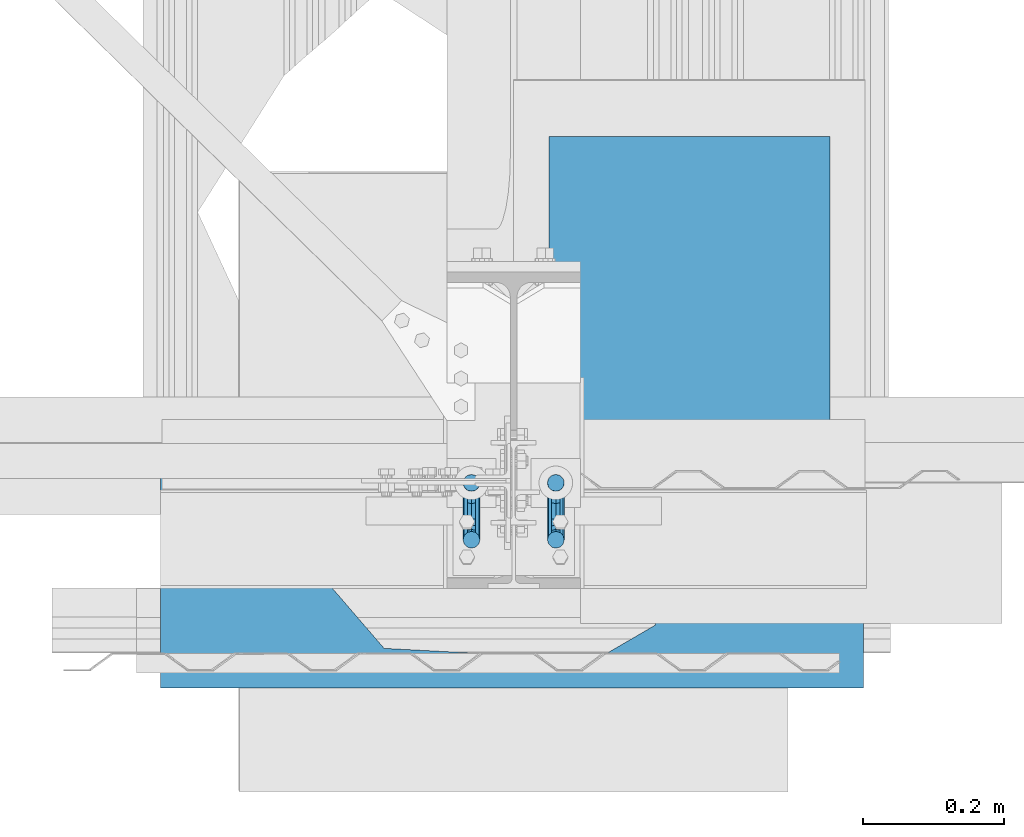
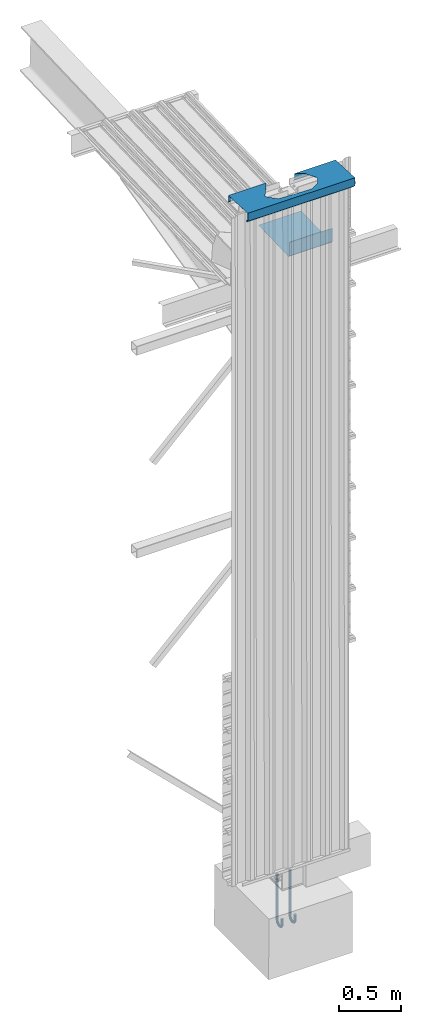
# One storey, part 5 of 18: 4 beams, 4 elements without a shape of their own.
"""IFC2X3 building model written with IfcOpenShell, lengths in millimetres."""

from ifc_helpers import new_model, si_unit, frame, origin_with_axes, place, context, subcontext, project, spatial, faceted_brep, material, type_object, element, aggregate, save


model = new_model("IFC2X3")

# Units and contexts
model_context = context("Model", 3, precision=1e-05, world=origin_with_axes())
body_context = subcontext(model_context, "Body", "Model", "MODEL_VIEW")
ifc_project = project(units=[si_unit("LENGTHUNIT", "METRE", prefix="MILLI"), si_unit("AREAUNIT", "SQUARE_METRE"), si_unit("VOLUMEUNIT", "CUBIC_METRE"), si_unit("MASSUNIT", "GRAM", prefix="KILO"), si_unit("TIMEUNIT", "SECOND"), si_unit("PLANEANGLEUNIT", "RADIAN"), si_unit("SOLIDANGLEUNIT", "STERADIAN"), si_unit("THERMODYNAMICTEMPERATUREUNIT", "DEGREE_CELSIUS"), si_unit("LUMINOUSINTENSITYUNIT", "LUMEN")], contexts=[model_context])

# Site, building, storey
site_placement = place(None, origin_with_axes())
site = spatial("IfcSite", under=ifc_project, at=site_placement, Name="Undefined", CompositionType="ELEMENT")
building_placement = place(site_placement, origin_with_axes())
building = spatial("IfcBuilding", under=site, at=building_placement, Name="Undefined", CompositionType="ELEMENT")
storey_placement = place(building_placement, origin_with_axes())
storey = spatial("IfcBuildingStorey", under=building, at=storey_placement, Name="Undefined", CompositionType="ELEMENT", Elevation=0.0)

# Assembly, beam
assembly_1_placement = place(storey_placement, frame((250.000322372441, 417.639639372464, 5825.52890698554), z_axis=(1.0, 0.0, 0.0), x_axis=(0.0, -0.999543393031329, -0.0302159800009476)))
assembly_1 = element("IfcElementAssembly", 1, at=assembly_1_placement, inside=storey, Name="etancheite", PredefinedType="NOTDEFINED")
ifc_material_1 = material(Name="MISCELLANEOUS/NEOPRENE")
beam_type_1 = type_object("IfcBeamType", Name="400*1", PredefinedType="NOTDEFINED")
beam_1_placement = place(storey_placement, frame((250.000322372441, 417.639639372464, 5825.52890698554), z_axis=(1.0, 0.0, 0.0), x_axis=(0.0, -0.999543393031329, -0.0302159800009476)))
beam_1 = element("IfcBeam", 2, at=beam_1_placement, type_object=beam_type_1, material=ifc_material_1, Name="ELASTOPHENE SOPREMA", ObjectType="400*1", context=body_context, shape_type="Brep", body=[
    faceted_brep([(-3.01611180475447e-10, -0.499999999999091, -200.0), (-3.01611180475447e-10, -0.499999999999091, 200.0), (3.01611180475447e-10, 0.5, 200.0), (3.01611180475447e-10, 0.5, -200.0), (482.989090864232, 0.499999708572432, 200.0), (482.989090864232, 0.499999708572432, -200.0), (482.890362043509, -0.500000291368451, -200.0), (482.890362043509, -0.500000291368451, 200.0), (486.407980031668, -0.181731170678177, 200.0), (486.407980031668, -0.181731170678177, -200.0), (486.126629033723, -1.14531607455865, -200.0), (486.126629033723, -1.14531607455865, 200.0), (489.656547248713, -1.44678824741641, 200.0), (489.656547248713, -1.44678824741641, -200.0), (489.212145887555, -2.34687807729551, -200.0), (489.212145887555, -2.34687807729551, 200.0), (492.636085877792, -3.25673386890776, 200.0), (492.636085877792, -3.25673386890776, -200.0), (492.042136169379, -4.06597930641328, -200.0), (492.042136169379, -4.06597930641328, 200.0), (495.256053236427, -5.55657243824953, 200.0), (495.256053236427, -5.55657243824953, -200.0), (494.530602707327, -6.25038488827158, -200.0), (494.530602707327, -6.25038488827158, 200.0), (497.436859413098, -8.2764247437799, 200.0), (497.436859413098, -8.2764247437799, -200.0), (496.6019516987, -8.83372465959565, -200.0), (496.6019516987, -8.83372465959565, 200.0), (499.112245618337, -11.3336507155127, 200.0), (499.112245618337, -11.3336507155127, -200.0), (498.193247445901, -11.7375033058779, -200.0), (498.193247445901, -11.7375033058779, 200.0), (500.231284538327, -14.6353565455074, 200.0), (500.231284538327, -14.6353565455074, -200.0), (499.256120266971, -14.8734919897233, -200.0), (499.256120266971, -14.8734919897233, 200.0), (500.760004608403, -18.081222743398, 200.0), (500.760004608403, -18.081222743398, -200.0), (499.757749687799, -18.1427983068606, -200.0), (499.757749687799, -18.1427983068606, 200.0), (496.895226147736, -148.924552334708, 200.0), (496.895226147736, -148.924552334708, -200.0), (495.895662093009, -148.895027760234, 200.0), (495.895662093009, -148.895027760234, -200.0)], [[[0, 1, 2, 3]], [[3, 2, 4, 5]], [[1, 0, 6, 7]], [[5, 4, 8, 9]], [[7, 6, 10, 11]], [[9, 8, 12, 13]], [[11, 10, 14, 15]], [[13, 12, 16, 17]], [[15, 14, 18, 19]], [[17, 16, 20, 21]], [[19, 18, 22, 23]], [[21, 20, 24, 25]], [[23, 22, 26, 27]], [[25, 24, 28, 29]], [[27, 26, 30, 31]], [[29, 28, 32, 33]], [[31, 30, 34, 35]], [[33, 32, 36, 37]], [[35, 34, 38, 39]], [[37, 36, 40, 41]], [[36, 32, 28, 24, 20, 16, 12, 8, 4, 2, 1, 7, 11, 15, 19, 23, 27, 31, 35, 39, 42, 40]], [[39, 38, 43, 42]], [[38, 34, 30, 26, 22, 18, 14, 10, 6, 0, 3, 5, 9, 13, 17, 21, 25, 29, 33, 37, 41, 43]], [[42, 43, 41, 40]]]),
])
aggregate(assembly_1, [beam_1])

assembly_2_placement = place(storey_placement, frame((-2.34999990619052, -46.2036559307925, 6523.27044355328), z_axis=(1.0, 0.0, 0.0), x_axis=(-1.94873002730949e-13, -0.470058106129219, 0.882635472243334)))
assembly_2 = element("IfcElementAssembly", 3, at=assembly_2_placement, inside=storey, Name="coiffe", PredefinedType="NOTDEFINED")
ifc_material_2 = material(Name="STEEL/S235JR")
beam_type_2 = type_object("IfcBeamType", Name="1000*0.63", PredefinedType="NOTDEFINED")
beam_2_placement = place(storey_placement, frame((-2.34999990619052, -46.2036559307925, 6523.27044355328), z_axis=(1.0, 0.0, 0.0), x_axis=(-1.94873002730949e-13, -0.470058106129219, 0.882635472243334)))
beam_2 = element("IfcBeam", 4, at=beam_2_placement, type_object=beam_type_2, material=ifc_material_2, Name="COIFFE ACROTERE", ObjectType="1000*0.63", context=body_context, shape_type="Brep", body=[
    faceted_brep([(67.5619696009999, -28.5167850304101, 119.975893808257), (14.6029651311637, -0.315000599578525, 114.335998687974), (-1.14296199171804e-08, -0.314999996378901, 103.221769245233), (1.45928424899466e-08, 0.315000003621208, 103.996193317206), (14.7602534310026, 0.314999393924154, 115.230133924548), (67.327993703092, -27.6784286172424, 120.828361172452), (92.8957096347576, 15.2524985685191, 193.060405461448), (93.4339052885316, 14.9249596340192, 193.0673975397), (-1.14023350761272e-08, -0.314999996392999, -141.128082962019), (14.6029651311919, -0.315000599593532, -145.808730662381), (67.561969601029, -28.5167850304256, -147.328344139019), (155.353317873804, 118.894270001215, -256.252318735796), (154.815122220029, 119.221808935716, -256.259310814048), (67.3279937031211, -27.6784286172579, -147.71278599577), (14.7602534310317, 0.314999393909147, -146.204399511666), (1.4619217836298e-08, 0.31500000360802, -141.473336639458), (199.576414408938, 193.14957471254, -181.885367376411), (199.038218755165, 193.47711364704, -181.892359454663), (207.707042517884, 206.801768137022, 119.674551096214), (207.168846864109, 207.129307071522, 119.667559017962), (182.889026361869, 165.129666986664, 202.950434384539), (182.350830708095, 165.457205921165, 202.943442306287), (147.611884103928, 105.895575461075, 243.631275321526), (147.073688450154, 106.223114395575, 243.624283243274), (158.168102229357, 278.500534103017, -499.999999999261), (158.168102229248, 278.500534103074, 500.000000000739), (148.760478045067, 260.839774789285, 500.000000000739), (148.760478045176, 260.839774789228, -499.999999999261), (227.636070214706, 241.495962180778, -499.999999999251), (227.636070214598, 241.495962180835, 500.000000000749), (228.515463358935, 241.741330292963, 500.000000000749), (228.515463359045, 241.741330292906, -499.999999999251), (157.908260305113, 279.352756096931, -499.999999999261), (157.908260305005, 279.352756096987, 500.000000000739), (148.500598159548, 261.691925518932, -499.999999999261), (148.50059815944, 261.691925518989, 500.000000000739), (130.847592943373, 271.092519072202, -499.999999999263), (130.847592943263, 271.092519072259, 500.000000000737), (67.3279937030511, -27.6784286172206, 500.000000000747), (14.7602534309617, 0.314999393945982, 500.000000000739), (9.45021838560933e-13, 0.314999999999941, 500.0), (-9.45021838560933e-13, -0.314999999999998, 500.0), (14.6029651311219, -0.315000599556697, 500.00000000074), (67.5619696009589, -28.5167850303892, 500.000000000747), (130.551474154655, 270.536449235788, 500.000000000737), (130.551474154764, 270.536449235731, -499.999999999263), (67.5619696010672, -28.516785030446, -499.999999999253), (14.602965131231, -0.315000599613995, -499.99999999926), (-9.45021838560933e-13, -0.314999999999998, -500.0), (9.45021838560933e-13, 0.314999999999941, -500.0), (14.7602534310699, 0.314999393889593, -499.999999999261), (67.3279937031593, -27.6784286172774, -499.999999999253)], [[[0, 1, 2, 3, 4, 5, 6, 7]], [[8, 9, 10, 11, 12, 13, 14, 15]], [[16, 17, 12, 11]], [[18, 19, 17, 16]], [[20, 21, 19, 18]], [[22, 23, 21, 20]], [[7, 6, 23, 22]], [[24, 25, 26, 27]], [[28, 29, 25, 24]], [[30, 31, 32, 33]], [[33, 32, 34, 35]], [[35, 34, 36, 37]], [[26, 25, 29, 38, 39, 40, 41, 42, 43, 30, 33, 35, 37, 44]], [[27, 26, 44, 45]], [[37, 36, 45, 44]], [[34, 32, 31, 46, 47, 48, 49, 50, 51, 28, 24, 27, 45, 36]], [[47, 46, 10, 9]], [[48, 47, 9, 8]], [[49, 48, 8, 15]], [[50, 49, 15, 14]], [[51, 50, 14, 13]], [[5, 38, 29, 28, 51, 13, 12, 17, 19, 21, 23, 6]], [[39, 38, 5, 4]], [[40, 39, 4, 3]], [[41, 40, 3, 2]], [[42, 41, 2, 1]], [[43, 42, 1, 0]], [[18, 16, 11, 10, 46, 31, 30, 43, 0, 7, 22, 20]]]),
])
aggregate(assembly_2, [beam_2])

assembly_3_placement = place(storey_placement, frame((-59.9999999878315, -74.9999991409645, -235.000000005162), z_axis=(0.0, -1.0, -6.7762635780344e-21), x_axis=(2.350712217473e-13, -3.38692037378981e-13, -1.0)))
assembly_3 = element("IfcElementAssembly", 5, at=assembly_3_placement, inside=storey, Name="Assembly", PredefinedType="NOTDEFINED")
beam_type_3 = type_object("IfcBeamType", Name="D24", PredefinedType="NOTDEFINED")
beam_3_placement = place(storey_placement, frame((-59.9999999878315, -74.9999991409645, -235.000000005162), z_axis=(0.0, -1.0, -6.7762635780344e-21), x_axis=(2.350712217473e-13, -3.38692037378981e-13, -1.0)))
beam_3 = element("IfcBeam", 6, at=beam_3_placement, type_object=beam_type_3, material=ifc_material_2, Name="CROSSE", ObjectType="D24", context=body_context, shape_type="Brep", body=[
    faceted_brep([(3.63797880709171e-12, -12.0000000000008, 7.44648787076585e-12), (1.70530256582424e-12, -10.3923048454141, -5.99999999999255), (447.999999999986, -10.392304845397, -6.00000000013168), (447.999999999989, -11.9999999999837, -1.31578303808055e-10), (1.70530256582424e-13, -6.00000000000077, -10.3923048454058), (447.999999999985, -5.99999999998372, -10.3923048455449), (-5.40012479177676e-13, -7.95807864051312e-13, -11.9999999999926), (447.999999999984, 1.62785340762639e-11, -12.0000000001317), (-2.8421709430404e-13, 5.99999999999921, -10.3923048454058), (447.999999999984, 6.00000000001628, -10.3923048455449), (9.37916411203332e-13, 10.3923048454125, -5.99999999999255), (447.999999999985, 10.3923048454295, -6.00000000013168), (2.72848410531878e-12, 11.9999999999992, 7.44648787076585e-12), (447.999999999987, 12.0000000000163, -1.31677779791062e-10), (4.66116034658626e-12, 10.3923048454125, 6.00000000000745), (447.999999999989, 10.3923048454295, 5.99999999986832), (6.19593265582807e-12, 5.9999999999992, 10.3923048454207), (447.99999999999, 6.00000000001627, 10.3923048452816), (6.90647539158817e-12, -7.95807864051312e-13, 12.0000000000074), (447.999999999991, 1.62714286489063e-11, 11.9999999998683), (6.65068000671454e-12, -6.00000000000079, 10.3923048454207), (447.999999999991, -5.99999999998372, 10.3923048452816), (5.42854650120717e-12, -10.3923048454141, 6.00000000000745), (447.99999999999, -10.392304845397, 5.99999999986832), (467.89953848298, 1.65130131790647e-11, -8.04173569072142), (467.284300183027, -5.99999999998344, -6.55641904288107), (465.603437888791, -10.3923048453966, -2.49845849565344), (463.307337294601, -11.9999999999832, 3.04481869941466), (461.011236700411, -10.3923048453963, 8.58809589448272), (459.330374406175, -5.999999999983, 12.6460564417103), (458.715136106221, 1.7024603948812e-11, 14.1313730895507), (459.330374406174, 6.00000000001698, 12.6460564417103), (461.01123670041, 10.3923048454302, 8.58809589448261), (463.3073372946, 12.0000000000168, 3.04481869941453), (465.603437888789, 10.3923048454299, -2.49845849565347), (467.284300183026, 6.00000000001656, -6.55641904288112), (483.632740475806, 6.00000000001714, 4.36725952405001), (484.769552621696, 1.7131185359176e-11, 3.23044737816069), (480.526911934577, 10.3923048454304, 7.47308806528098), (476.284271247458, 12.0000000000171, 11.715728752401), (472.04163056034, 10.3923048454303, 15.9583694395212), (468.93580201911, 6.00000000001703, 19.0641979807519), (467.798989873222, 1.7024603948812e-11, 20.2010101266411), (468.935802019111, -5.99999999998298, 19.0641979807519), (472.041630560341, -10.3923048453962, 15.9583694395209), (476.28427124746, -11.9999999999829, 11.7157287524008), (480.526911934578, -10.3923048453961, 7.47308806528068), (483.632740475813, -5.99999999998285, 4.36725952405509), (494.55641904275, 6.00000000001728, 20.7156998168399), (496.041735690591, 1.73159264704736e-11, 20.1004615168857), (490.498458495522, 10.3923048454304, 22.3965621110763), (484.955181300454, 12.000000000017, 24.6926627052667), (479.411904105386, 10.3923048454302, 26.9887632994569), (475.353943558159, 6.00000000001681, 28.6696255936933), (473.868626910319, 1.6775913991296e-11, 29.284863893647), (475.35394355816, -5.99999999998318, 28.6696255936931), (479.411904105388, -10.3923048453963, 26.9887632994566), (484.955181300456, -11.999999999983, 24.6926627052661), (490.498458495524, -10.3923048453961, 22.3965621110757), (494.556419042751, -5.99999999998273, 20.7156998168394), (498.392304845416, 6.00000000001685, 39.9999999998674), (500.000000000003, 1.68967062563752e-11, 39.9999999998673), (494.000000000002, 10.39230484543, 39.9999999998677), (488.000000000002, 12.0000000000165, 39.9999999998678), (482.000000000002, 10.3923048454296, 39.999999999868), (477.607695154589, 6.00000000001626, 39.999999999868), (476.000000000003, 1.62145852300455e-11, 39.999999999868), (477.60769515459, -5.99999999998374, 39.9999999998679), (482.000000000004, -10.3923048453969, 39.9999999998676), (488.000000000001, -11.9999999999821, 39.9999999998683), (494.000000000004, -10.3923048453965, 39.9999999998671), (498.392304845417, -5.99999999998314, 39.9999999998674), (494.000000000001, -10.3923048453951, 40.4144965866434), (488.000000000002, -11.9999999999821, 40.4144965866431), (498.392304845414, -5.99999999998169, 40.4144965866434), (500.0, 1.83746351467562e-11, 40.4144965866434), (498.392304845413, 6.00000000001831, 40.4144965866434), (493.999999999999, 10.3923048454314, 40.4144965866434), (487.999999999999, 12.0000000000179, 40.4144965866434), (481.999999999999, 10.3923048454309, 40.4144965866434), (477.607695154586, 6.00000000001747, 40.4144965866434), (476.0, 1.74011915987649e-11, 40.4144965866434), (477.607695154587, -5.99999999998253, 40.4144965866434), (482.000000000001, -10.3923048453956, 40.4144965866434), (496.093392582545, 1.81614723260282e-11, 60.1888635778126), (494.606478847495, -5.99999999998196, 59.5774952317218), (490.544154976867, -10.3923048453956, 57.9072058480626), (484.994917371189, -11.9999999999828, 55.6255481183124), (479.445679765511, -10.3923048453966, 53.3438903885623), (475.383355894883, -5.99999999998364, 51.673601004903), (473.896442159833, 1.62216906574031e-11, 51.0622326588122), (475.383355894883, 6.00000000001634, 51.673601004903), (479.445679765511, 10.39230484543, 53.3438903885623), (484.994917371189, 12.0000000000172, 55.6255481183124), (490.544154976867, 10.3923048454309, 57.9072058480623), (494.606478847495, 6.00000000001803, 59.5774952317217), (483.817836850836, 6.00000000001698, 75.8611741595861), (484.960554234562, 1.70743419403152e-11, 76.9920502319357), (480.695874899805, 10.39230484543, 72.7715632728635), (476.431195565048, 12.0000000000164, 68.5510763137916), (472.166516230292, 10.3923048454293, 64.3305893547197), (469.044554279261, 6.00000000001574, 61.2409784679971), (467.901836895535, 1.56461510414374e-11, 60.1101023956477), (469.044554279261, -5.99999999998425, 61.2409784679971), (472.166516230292, -10.3923048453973, 64.3305893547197), (476.431195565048, -11.9999999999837, 68.5510763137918), (480.695874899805, -10.3923048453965, 72.7715632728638), (483.817836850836, -5.99999999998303, 75.8611741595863), (467.647416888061, 6.00000000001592, 86.8188433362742), (468.274239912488, 1.59872115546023e-11, 88.2993083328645), (465.934904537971, 10.392304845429, 82.7741377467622), (463.595569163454, 12.0000000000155, 77.2489671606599), (461.256233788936, 10.3923048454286, 71.7237965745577), (459.543721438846, 6.00000000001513, 67.6790909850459), (458.916898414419, 1.50848222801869e-11, 66.1986259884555), (459.543721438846, -5.99999999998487, 67.6790909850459), (461.256233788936, -10.3923048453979, 71.7237965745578), (463.595569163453, -11.9999999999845, 77.2489671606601), (465.934904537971, -10.3923048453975, 82.7741377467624), (467.647416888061, -5.99999999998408, 86.8188433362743), (448.524891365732, 6.00000000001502, 90.804067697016), (448.541637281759, 1.50635059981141e-11, 92.4116756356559), (448.479140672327, 10.3923048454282, 86.4120011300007), (448.416644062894, 12.0000000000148, 80.4123266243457), (448.35414745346, 10.392304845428, 74.4126521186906), (448.308396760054, 6.00000000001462, 70.0205855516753), (448.291650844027, 1.46016532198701e-11, 68.4129776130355), (448.308396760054, -5.99999999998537, 70.0205855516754), (448.35414745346, -10.3923048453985, 74.4126521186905), (448.416644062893, -11.9999999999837, 80.4123266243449), (448.479140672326, -10.3923048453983, 86.4120011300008), (448.524891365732, -5.99999999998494, 90.8040676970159), (392.062496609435, -10.3923048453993, 86.9996745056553), (392.000000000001, -11.999999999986, 81.0), (392.108247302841, -5.99999999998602, 91.3917410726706), (392.124993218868, 1.39692701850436e-11, 92.9993490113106), (392.10824730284, 6.00000000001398, 91.3917410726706), (392.062496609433, 10.3923048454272, 86.9996745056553), (391.999999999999, 12.000000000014, 81.0), (391.937503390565, 10.3923048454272, 75.0003254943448), (391.891752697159, 6.00000000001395, 70.6082589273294), (391.875006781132, 1.39408484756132e-11, 69.0006509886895), (391.89175269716, -5.99999999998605, 70.6082589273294), (391.937503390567, -10.3923048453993, 75.0003254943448)], [[[0, 1, 2, 3]], [[1, 4, 5, 2]], [[4, 6, 7, 5]], [[6, 8, 9, 7]], [[8, 10, 11, 9]], [[10, 12, 13, 11]], [[12, 14, 15, 13]], [[14, 16, 17, 15]], [[16, 18, 19, 17]], [[18, 20, 21, 19]], [[20, 22, 23, 21]], [[22, 0, 3, 23]], [[22, 20, 18, 16, 14, 12, 10, 8, 6, 4, 1, 0]], [[5, 7, 24, 25]], [[2, 5, 25, 26]], [[3, 2, 26, 27]], [[23, 3, 27, 28]], [[21, 23, 28, 29]], [[19, 21, 29, 30]], [[17, 19, 30, 31]], [[15, 17, 31, 32]], [[13, 15, 32, 33]], [[11, 13, 33, 34]], [[9, 11, 34, 35]], [[7, 9, 35, 24]], [[35, 36, 37, 24]], [[34, 38, 36, 35]], [[33, 39, 38, 34]], [[32, 40, 39, 33]], [[31, 41, 40, 32]], [[30, 42, 41, 31]], [[29, 43, 42, 30]], [[28, 44, 43, 29]], [[27, 45, 44, 28]], [[26, 46, 45, 27]], [[25, 47, 46, 26]], [[24, 37, 47, 25]], [[36, 48, 49, 37]], [[38, 50, 48, 36]], [[39, 51, 50, 38]], [[40, 52, 51, 39]], [[41, 53, 52, 40]], [[42, 54, 53, 41]], [[43, 55, 54, 42]], [[44, 56, 55, 43]], [[45, 57, 56, 44]], [[46, 58, 57, 45]], [[47, 59, 58, 46]], [[37, 49, 59, 47]], [[48, 60, 61, 49]], [[50, 62, 60, 48]], [[51, 63, 62, 50]], [[52, 64, 63, 51]], [[53, 65, 64, 52]], [[54, 66, 65, 53]], [[55, 67, 66, 54]], [[56, 68, 67, 55]], [[57, 69, 68, 56]], [[58, 70, 69, 57]], [[59, 71, 70, 58]], [[49, 61, 71, 59]], [[69, 70, 72, 73]], [[70, 71, 74, 72]], [[71, 61, 75, 74]], [[61, 60, 76, 75]], [[60, 62, 77, 76]], [[62, 63, 78, 77]], [[63, 64, 79, 78]], [[64, 65, 80, 79]], [[65, 66, 81, 80]], [[66, 67, 82, 81]], [[67, 68, 83, 82]], [[68, 69, 73, 83]], [[74, 75, 84, 85]], [[72, 74, 85, 86]], [[73, 72, 86, 87]], [[83, 73, 87, 88]], [[82, 83, 88, 89]], [[81, 82, 89, 90]], [[80, 81, 90, 91]], [[79, 80, 91, 92]], [[78, 79, 92, 93]], [[77, 78, 93, 94]], [[76, 77, 94, 95]], [[75, 76, 95, 84]], [[95, 96, 97, 84]], [[94, 98, 96, 95]], [[93, 99, 98, 94]], [[92, 100, 99, 93]], [[91, 101, 100, 92]], [[90, 102, 101, 91]], [[89, 103, 102, 90]], [[88, 104, 103, 89]], [[87, 105, 104, 88]], [[86, 106, 105, 87]], [[85, 107, 106, 86]], [[84, 97, 107, 85]], [[96, 108, 109, 97]], [[98, 110, 108, 96]], [[99, 111, 110, 98]], [[100, 112, 111, 99]], [[101, 113, 112, 100]], [[102, 114, 113, 101]], [[103, 115, 114, 102]], [[104, 116, 115, 103]], [[105, 117, 116, 104]], [[106, 118, 117, 105]], [[107, 119, 118, 106]], [[97, 109, 119, 107]], [[108, 120, 121, 109]], [[110, 122, 120, 108]], [[111, 123, 122, 110]], [[112, 124, 123, 111]], [[113, 125, 124, 112]], [[114, 126, 125, 113]], [[115, 127, 126, 114]], [[116, 128, 127, 115]], [[117, 129, 128, 116]], [[118, 130, 129, 117]], [[119, 131, 130, 118]], [[109, 121, 131, 119]], [[129, 130, 132, 133]], [[130, 131, 134, 132]], [[131, 121, 135, 134]], [[121, 120, 136, 135]], [[120, 122, 137, 136]], [[122, 123, 138, 137]], [[123, 124, 139, 138]], [[124, 125, 140, 139]], [[125, 126, 141, 140]], [[126, 127, 142, 141]], [[127, 128, 143, 142]], [[128, 129, 133, 143]], [[134, 135, 136, 137, 138, 139, 140, 141, 142, 143, 133, 132]]]),
])
aggregate(assembly_3, [beam_3])

assembly_4_placement = place(storey_placement, frame((59.9999999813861, -74.9999991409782, -235.000000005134), z_axis=(0.0, -1.0, -6.7762635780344e-21), x_axis=(2.350712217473e-13, -3.38692037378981e-13, -1.0)))
assembly_4 = element("IfcElementAssembly", 7, at=assembly_4_placement, inside=storey, Name="BARRE", PredefinedType="NOTDEFINED")
beam_4_placement = place(storey_placement, frame((59.9999999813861, -74.9999991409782, -235.000000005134), z_axis=(0.0, -1.0, -6.7762635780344e-21), x_axis=(2.350712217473e-13, -3.38692037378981e-13, -1.0)))
beam_4 = element("IfcBeam", 8, at=beam_4_placement, type_object=beam_type_3, material=ifc_material_2, Name="CROSSE", ObjectType="D24", context=body_context, shape_type="Brep", body=[
    faceted_brep([(3.63797880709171e-12, -12.0000000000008, 7.44648787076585e-12), (1.70530256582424e-12, -10.3923048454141, -5.99999999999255), (447.999999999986, -10.392304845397, -6.00000000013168), (447.999999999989, -11.9999999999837, -1.31578303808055e-10), (1.70530256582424e-13, -6.00000000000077, -10.3923048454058), (447.999999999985, -5.99999999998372, -10.3923048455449), (-5.40012479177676e-13, -7.95807864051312e-13, -11.9999999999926), (447.999999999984, 1.62785340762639e-11, -12.0000000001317), (-2.8421709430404e-13, 5.99999999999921, -10.3923048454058), (447.999999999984, 6.00000000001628, -10.3923048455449), (9.37916411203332e-13, 10.3923048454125, -5.99999999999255), (447.999999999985, 10.3923048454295, -6.00000000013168), (2.72848410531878e-12, 11.9999999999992, 7.44648787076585e-12), (447.999999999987, 12.0000000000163, -1.31677779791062e-10), (4.66116034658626e-12, 10.3923048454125, 6.00000000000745), (447.999999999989, 10.3923048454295, 5.99999999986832), (6.19593265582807e-12, 5.9999999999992, 10.3923048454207), (447.99999999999, 6.00000000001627, 10.3923048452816), (6.90647539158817e-12, -7.95807864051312e-13, 12.0000000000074), (447.999999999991, 1.62714286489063e-11, 11.9999999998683), (6.65068000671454e-12, -6.00000000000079, 10.3923048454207), (447.999999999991, -5.99999999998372, 10.3923048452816), (5.42854650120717e-12, -10.3923048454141, 6.00000000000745), (447.99999999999, -10.392304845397, 5.99999999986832), (467.89953848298, 1.65130131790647e-11, -8.04173569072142), (467.284300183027, -5.99999999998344, -6.55641904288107), (465.603437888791, -10.3923048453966, -2.49845849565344), (463.307337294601, -11.9999999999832, 3.04481869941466), (461.011236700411, -10.3923048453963, 8.58809589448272), (459.330374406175, -5.999999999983, 12.6460564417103), (458.715136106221, 1.7024603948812e-11, 14.1313730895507), (459.330374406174, 6.00000000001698, 12.6460564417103), (461.01123670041, 10.3923048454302, 8.58809589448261), (463.3073372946, 12.0000000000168, 3.04481869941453), (465.603437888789, 10.3923048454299, -2.49845849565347), (467.284300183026, 6.00000000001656, -6.55641904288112), (483.632740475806, 6.00000000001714, 4.36725952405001), (484.769552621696, 1.7131185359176e-11, 3.23044737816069), (480.526911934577, 10.3923048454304, 7.47308806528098), (476.284271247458, 12.0000000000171, 11.715728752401), (472.04163056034, 10.3923048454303, 15.9583694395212), (468.93580201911, 6.00000000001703, 19.0641979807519), (467.798989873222, 1.7024603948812e-11, 20.2010101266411), (468.935802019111, -5.99999999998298, 19.0641979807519), (472.041630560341, -10.3923048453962, 15.9583694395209), (476.28427124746, -11.9999999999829, 11.7157287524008), (480.526911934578, -10.3923048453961, 7.47308806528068), (483.632740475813, -5.99999999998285, 4.36725952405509), (494.55641904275, 6.00000000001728, 20.7156998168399), (496.041735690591, 1.73159264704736e-11, 20.1004615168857), (490.498458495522, 10.3923048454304, 22.3965621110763), (484.955181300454, 12.000000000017, 24.6926627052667), (479.411904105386, 10.3923048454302, 26.9887632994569), (475.353943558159, 6.00000000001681, 28.6696255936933), (473.868626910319, 1.6775913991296e-11, 29.284863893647), (475.35394355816, -5.99999999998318, 28.6696255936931), (479.411904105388, -10.3923048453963, 26.9887632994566), (484.955181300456, -11.999999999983, 24.6926627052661), (490.498458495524, -10.3923048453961, 22.3965621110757), (494.556419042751, -5.99999999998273, 20.7156998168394), (498.392304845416, 6.00000000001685, 39.9999999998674), (500.000000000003, 1.68967062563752e-11, 39.9999999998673), (494.000000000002, 10.39230484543, 39.9999999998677), (488.000000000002, 12.0000000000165, 39.9999999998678), (482.000000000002, 10.3923048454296, 39.999999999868), (477.607695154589, 6.00000000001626, 39.999999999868), (476.000000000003, 1.62145852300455e-11, 39.999999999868), (477.60769515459, -5.99999999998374, 39.9999999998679), (482.000000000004, -10.3923048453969, 39.9999999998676), (488.000000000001, -11.9999999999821, 39.9999999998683), (494.000000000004, -10.3923048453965, 39.9999999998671), (498.392304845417, -5.99999999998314, 39.9999999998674), (494.000000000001, -10.3923048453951, 40.4144965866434), (488.000000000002, -11.9999999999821, 40.4144965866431), (498.392304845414, -5.99999999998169, 40.4144965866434), (500.0, 1.83746351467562e-11, 40.4144965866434), (498.392304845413, 6.00000000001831, 40.4144965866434), (493.999999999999, 10.3923048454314, 40.4144965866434), (487.999999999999, 12.0000000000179, 40.4144965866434), (481.999999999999, 10.3923048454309, 40.4144965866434), (477.607695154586, 6.00000000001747, 40.4144965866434), (476.0, 1.74011915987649e-11, 40.4144965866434), (477.607695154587, -5.99999999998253, 40.4144965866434), (482.000000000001, -10.3923048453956, 40.4144965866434), (496.093392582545, 1.81614723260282e-11, 60.1888635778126), (494.606478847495, -5.99999999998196, 59.5774952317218), (490.544154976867, -10.3923048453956, 57.9072058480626), (484.994917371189, -11.9999999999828, 55.6255481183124), (479.445679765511, -10.3923048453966, 53.3438903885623), (475.383355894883, -5.99999999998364, 51.673601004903), (473.896442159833, 1.62216906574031e-11, 51.0622326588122), (475.383355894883, 6.00000000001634, 51.673601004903), (479.445679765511, 10.39230484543, 53.3438903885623), (484.994917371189, 12.0000000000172, 55.6255481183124), (490.544154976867, 10.3923048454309, 57.9072058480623), (494.606478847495, 6.00000000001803, 59.5774952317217), (483.817836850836, 6.00000000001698, 75.8611741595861), (484.960554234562, 1.70743419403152e-11, 76.9920502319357), (480.695874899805, 10.39230484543, 72.7715632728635), (476.431195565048, 12.0000000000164, 68.5510763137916), (472.166516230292, 10.3923048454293, 64.3305893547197), (469.044554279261, 6.00000000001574, 61.2409784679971), (467.901836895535, 1.56461510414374e-11, 60.1101023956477), (469.044554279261, -5.99999999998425, 61.2409784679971), (472.166516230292, -10.3923048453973, 64.3305893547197), (476.431195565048, -11.9999999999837, 68.5510763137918), (480.695874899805, -10.3923048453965, 72.7715632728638), (483.817836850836, -5.99999999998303, 75.8611741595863), (467.647416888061, 6.00000000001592, 86.8188433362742), (468.274239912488, 1.59872115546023e-11, 88.2993083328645), (465.934904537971, 10.392304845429, 82.7741377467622), (463.595569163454, 12.0000000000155, 77.2489671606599), (461.256233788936, 10.3923048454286, 71.7237965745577), (459.543721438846, 6.00000000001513, 67.6790909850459), (458.916898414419, 1.50848222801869e-11, 66.1986259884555), (459.543721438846, -5.99999999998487, 67.6790909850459), (461.256233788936, -10.3923048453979, 71.7237965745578), (463.595569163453, -11.9999999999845, 77.2489671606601), (465.934904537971, -10.3923048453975, 82.7741377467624), (467.647416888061, -5.99999999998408, 86.8188433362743), (448.524891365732, 6.00000000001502, 90.804067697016), (448.541637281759, 1.50635059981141e-11, 92.4116756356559), (448.479140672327, 10.3923048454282, 86.4120011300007), (448.416644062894, 12.0000000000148, 80.4123266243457), (448.35414745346, 10.392304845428, 74.4126521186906), (448.308396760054, 6.00000000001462, 70.0205855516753), (448.291650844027, 1.46016532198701e-11, 68.4129776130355), (448.308396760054, -5.99999999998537, 70.0205855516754), (448.35414745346, -10.3923048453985, 74.4126521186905), (448.416644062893, -11.9999999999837, 80.4123266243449), (448.479140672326, -10.3923048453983, 86.4120011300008), (448.524891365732, -5.99999999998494, 90.8040676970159), (392.062496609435, -10.3923048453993, 86.9996745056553), (392.000000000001, -11.999999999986, 81.0), (392.108247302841, -5.99999999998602, 91.3917410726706), (392.124993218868, 1.39692701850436e-11, 92.9993490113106), (392.10824730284, 6.00000000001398, 91.3917410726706), (392.062496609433, 10.3923048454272, 86.9996745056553), (391.999999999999, 12.000000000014, 81.0), (391.937503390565, 10.3923048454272, 75.0003254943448), (391.891752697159, 6.00000000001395, 70.6082589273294), (391.875006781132, 1.39408484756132e-11, 69.0006509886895), (391.89175269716, -5.99999999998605, 70.6082589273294), (391.937503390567, -10.3923048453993, 75.0003254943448)], [[[0, 1, 2, 3]], [[1, 4, 5, 2]], [[4, 6, 7, 5]], [[6, 8, 9, 7]], [[8, 10, 11, 9]], [[10, 12, 13, 11]], [[12, 14, 15, 13]], [[14, 16, 17, 15]], [[16, 18, 19, 17]], [[18, 20, 21, 19]], [[20, 22, 23, 21]], [[22, 0, 3, 23]], [[22, 20, 18, 16, 14, 12, 10, 8, 6, 4, 1, 0]], [[5, 7, 24, 25]], [[2, 5, 25, 26]], [[3, 2, 26, 27]], [[23, 3, 27, 28]], [[21, 23, 28, 29]], [[19, 21, 29, 30]], [[17, 19, 30, 31]], [[15, 17, 31, 32]], [[13, 15, 32, 33]], [[11, 13, 33, 34]], [[9, 11, 34, 35]], [[7, 9, 35, 24]], [[35, 36, 37, 24]], [[34, 38, 36, 35]], [[33, 39, 38, 34]], [[32, 40, 39, 33]], [[31, 41, 40, 32]], [[30, 42, 41, 31]], [[29, 43, 42, 30]], [[28, 44, 43, 29]], [[27, 45, 44, 28]], [[26, 46, 45, 27]], [[25, 47, 46, 26]], [[24, 37, 47, 25]], [[36, 48, 49, 37]], [[38, 50, 48, 36]], [[39, 51, 50, 38]], [[40, 52, 51, 39]], [[41, 53, 52, 40]], [[42, 54, 53, 41]], [[43, 55, 54, 42]], [[44, 56, 55, 43]], [[45, 57, 56, 44]], [[46, 58, 57, 45]], [[47, 59, 58, 46]], [[37, 49, 59, 47]], [[48, 60, 61, 49]], [[50, 62, 60, 48]], [[51, 63, 62, 50]], [[52, 64, 63, 51]], [[53, 65, 64, 52]], [[54, 66, 65, 53]], [[55, 67, 66, 54]], [[56, 68, 67, 55]], [[57, 69, 68, 56]], [[58, 70, 69, 57]], [[59, 71, 70, 58]], [[49, 61, 71, 59]], [[69, 70, 72, 73]], [[70, 71, 74, 72]], [[71, 61, 75, 74]], [[61, 60, 76, 75]], [[60, 62, 77, 76]], [[62, 63, 78, 77]], [[63, 64, 79, 78]], [[64, 65, 80, 79]], [[65, 66, 81, 80]], [[66, 67, 82, 81]], [[67, 68, 83, 82]], [[68, 69, 73, 83]], [[74, 75, 84, 85]], [[72, 74, 85, 86]], [[73, 72, 86, 87]], [[83, 73, 87, 88]], [[82, 83, 88, 89]], [[81, 82, 89, 90]], [[80, 81, 90, 91]], [[79, 80, 91, 92]], [[78, 79, 92, 93]], [[77, 78, 93, 94]], [[76, 77, 94, 95]], [[75, 76, 95, 84]], [[95, 96, 97, 84]], [[94, 98, 96, 95]], [[93, 99, 98, 94]], [[92, 100, 99, 93]], [[91, 101, 100, 92]], [[90, 102, 101, 91]], [[89, 103, 102, 90]], [[88, 104, 103, 89]], [[87, 105, 104, 88]], [[86, 106, 105, 87]], [[85, 107, 106, 86]], [[84, 97, 107, 85]], [[96, 108, 109, 97]], [[98, 110, 108, 96]], [[99, 111, 110, 98]], [[100, 112, 111, 99]], [[101, 113, 112, 100]], [[102, 114, 113, 101]], [[103, 115, 114, 102]], [[104, 116, 115, 103]], [[105, 117, 116, 104]], [[106, 118, 117, 105]], [[107, 119, 118, 106]], [[97, 109, 119, 107]], [[108, 120, 121, 109]], [[110, 122, 120, 108]], [[111, 123, 122, 110]], [[112, 124, 123, 111]], [[113, 125, 124, 112]], [[114, 126, 125, 113]], [[115, 127, 126, 114]], [[116, 128, 127, 115]], [[117, 129, 128, 116]], [[118, 130, 129, 117]], [[119, 131, 130, 118]], [[109, 121, 131, 119]], [[129, 130, 132, 133]], [[130, 131, 134, 132]], [[131, 121, 135, 134]], [[121, 120, 136, 135]], [[120, 122, 137, 136]], [[122, 123, 138, 137]], [[123, 124, 139, 138]], [[124, 125, 140, 139]], [[125, 126, 141, 140]], [[126, 127, 142, 141]], [[127, 128, 143, 142]], [[128, 129, 133, 143]], [[134, 135, 136, 137, 138, 139, 140, 141, 142, 143, 133, 132]]]),
])
aggregate(assembly_4, [beam_4])

save(model, "model.ifc")
